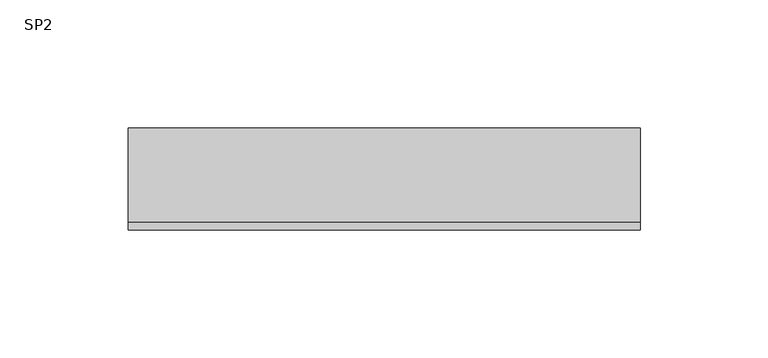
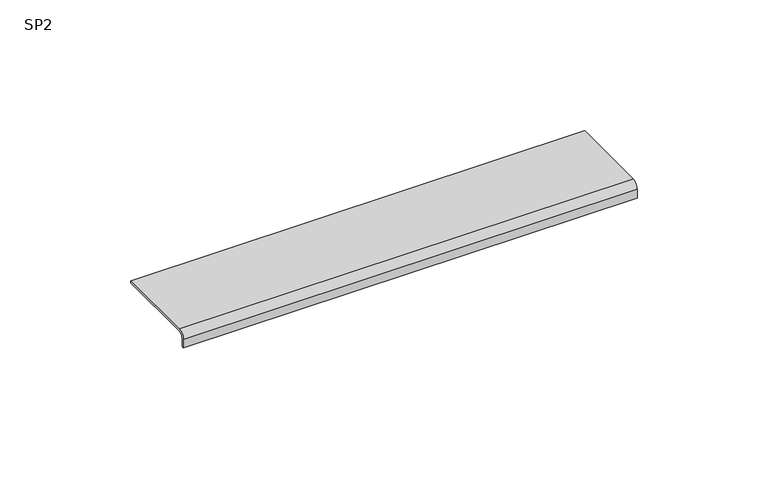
"""IFC4 building model written with IfcOpenShell, lengths in millimetres: cable carrier fitting geometry, КМ Профиль Соединительная пластина для листового лотка SP : SP2."""

import ifcopenshell
import ifcopenshell.guid

model = None  # the IFC model being written
_history = None  # IfcOwnerHistory: only IFC2X3 demands one
_inside = {}  # id of a spatial element -> (the spatial element, [elements in it])
_under = {}  # id of a project, library or spatial element -> (it, [spatial elements below it])
_declared = {}  # id of a project -> (the project, [libraries it declares])
_typed = {}  # id of a type object -> (the type object, [elements of that type])
_made_of = {}  # id of a material, layer set ... -> (it, [elements and type objects made of it])


def new_model(schema):
    """Start an empty IFC model of exactly this schema.

    Asked for "IFC4X3", IfcOpenShell would pick the latest addendum, in which some entities
    have other attributes; the version numbers below select the first issue.
    IFC2X3 requires an IfcOwnerHistory on every rooted entity: one is made here for all.
    """
    global model, _history
    if schema == "IFC4X3":
        model = ifcopenshell.file(schema_version=(4, 3, 0, 0))
    else:
        model = ifcopenshell.file(schema=schema)
    _inside.clear()
    _under.clear()
    _declared.clear()
    _typed.clear()
    _made_of.clear()
    _history = None
    if model.schema == "IFC2X3":
        org = make("IfcOrganization", Name="unknown")
        user = make(
            "IfcPersonAndOrganization",
            ThePerson=make("IfcPerson", FamilyName="unknown"),
            TheOrganization=org,
        )
        app = make(
            "IfcApplication",
            ApplicationDeveloper=org,
            Version="unknown",
            ApplicationFullName="unknown",
            ApplicationIdentifier="unknown",
        )
        _history = make(
            "IfcOwnerHistory",
            OwningUser=user,
            OwningApplication=app,
            ChangeAction="ADDED",
            CreationDate=0,
        )
    return model


def make(cls, **values):
    """One entity of the class cls with the attributes given. An attribute that is None is left unset."""
    return model.create_entity(
        cls, **{name: value for name, value in values.items() if value is not None}
    )


def rooted(cls, **values):
    """An entity with a GlobalId (a new one), such as an element, a storey or a relation."""
    return make(cls, GlobalId=ifcopenshell.guid.new(), OwnerHistory=_history, **values)


def si_unit(unit_type, name, prefix=None):
    """IfcSIUnit, for example si_unit("LENGTHUNIT", "METRE", prefix="MILLI")."""
    return make("IfcSIUnit", UnitType=unit_type, Prefix=prefix, Name=name)


def assignment(units):
    """IfcUnitAssignment: the units of a project."""
    return None if units is None else make("IfcUnitAssignment", Units=units)


def point(xyz):
    """IfcCartesianPoint."""
    return None if xyz is None else make("IfcCartesianPoint", Coordinates=xyz)


def direction(xyz):
    """IfcDirection."""
    return None if xyz is None else make("IfcDirection", DirectionRatios=xyz)


def frame(location, z_axis=None, x_axis=None):
    """IfcAxis2Placement3D, a coordinate frame: its origin and axes. An axis left out is left unset."""
    return make(
        "IfcAxis2Placement3D",
        Location=point(location),
        Axis=direction(z_axis),
        RefDirection=direction(x_axis),
    )


def frame_2d(location, x_axis=None):
    """IfcAxis2Placement2D, a coordinate frame in the plane: its origin and x axis."""
    return make(
        "IfcAxis2Placement2D", Location=point(location), RefDirection=direction(x_axis)
    )


def origin():
    """The frame at (0, 0, 0) with its axes left unset."""
    return frame((0.0, 0.0, 0.0))


def place(relative_to, where):
    """IfcLocalPlacement: puts the frame where relative to a parent placement (None: the world)."""
    return make(
        "IfcLocalPlacement", PlacementRelTo=relative_to, RelativePlacement=where
    )


def context(
    kind, dimensions, precision=None, world=None, true_north=None, identifier=None
):
    """IfcGeometricRepresentationContext, for example the 3D "Model" context."""
    return make(
        "IfcGeometricRepresentationContext",
        ContextIdentifier=identifier,
        ContextType=kind,
        CoordinateSpaceDimension=dimensions,
        Precision=precision,
        WorldCoordinateSystem=world,
        TrueNorth=true_north,
    )


def project(units=None, contexts=None):
    """IfcProject with its units and contexts."""
    return rooted(
        "IfcProject",
        Name="project",
        RepresentationContexts=contexts,
        UnitsInContext=assignment(units),
    )


def spatial(cls, under=None, at=None, **own):
    """A site, building, storey or space (cls), placed at a placement, below another one or the project."""
    s = rooted(cls, ObjectPlacement=at, **own)
    if under is not None:
        _under.setdefault(under.id(), (under, []))[1].append(s)
    return s


def polyline(points):
    """IfcPolyline through the points."""
    return make("IfcPolyline", Points=[point(p) for p in points])


def circle_curve(where, radius):
    """IfcCircle in the frame where."""
    return make("IfcCircle", Position=where, Radius=radius)


def trimmed(basis, trim1, trim2, sense, master):
    """IfcTrimmedCurve: the piece of a basis curve between two trims."""
    return make(
        "IfcTrimmedCurve",
        BasisCurve=basis,
        Trim1=trim1,
        Trim2=trim2,
        SenseAgreement=sense,
        MasterRepresentation=master,
    )


def segment(curve, same_sense, transition):
    """IfcCompositeCurveSegment."""
    return make(
        "IfcCompositeCurveSegment",
        Transition=transition,
        SameSense=same_sense,
        ParentCurve=curve,
    )


def composite_curve(segments, self_intersect=None):
    """IfcCompositeCurve: segments joined end to end."""
    return make("IfcCompositeCurve", Segments=segments, SelfIntersect=self_intersect)


def outline(outer, holes=None, kind="AREA"):
    """IfcArbitraryClosedProfileDef: a profile drawn as a closed curve; with holes, ...WithVoids."""
    if holes is None:
        return make("IfcArbitraryClosedProfileDef", ProfileType=kind, OuterCurve=outer)
    return make(
        "IfcArbitraryProfileDefWithVoids",
        ProfileType=kind,
        OuterCurve=outer,
        InnerCurves=holes,
    )


def extrude(swept, where, along, depth):
    """IfcExtrudedAreaSolid: the profile swept, set in the frame where, extruded along a direction by depth."""
    return make(
        "IfcExtrudedAreaSolid",
        SweptArea=swept,
        Position=where,
        ExtrudedDirection=direction(along),
        Depth=depth,
    )


def shape(context_of_items, identifier, shape_type, items):
    """IfcShapeRepresentation: the items that make up one representation, for example the "Body"."""
    return make(
        "IfcShapeRepresentation",
        ContextOfItems=context_of_items,
        RepresentationIdentifier=identifier,
        RepresentationType=shape_type,
        Items=items,
    )


def source(mapping_origin, context_of_items, identifier, shape_type, items):
    """IfcRepresentationMap: a shape defined once, which mapped items show again and again."""
    return make(
        "IfcRepresentationMap",
        MappingOrigin=mapping_origin,
        MappedRepresentation=shape(context_of_items, identifier, shape_type, items),
    )


def transform(
    local_origin,
    x_axis=None,
    y_axis=None,
    z_axis=None,
    scale=None,
    scale2=None,
    scale3=None,
    uniform=True,
):
    """IfcCartesianTransformationOperator3D, or its non-uniform kind. x_axis, y_axis, z_axis: its Axis1, 2, 3."""
    if uniform:
        return make(
            "IfcCartesianTransformationOperator3D",
            Axis1=direction(x_axis),
            Axis2=direction(y_axis),
            LocalOrigin=point(local_origin),
            Scale=scale,
            Axis3=direction(z_axis),
        )
    return make(
        "IfcCartesianTransformationOperator3DnonUniform",
        Axis1=direction(x_axis),
        Axis2=direction(y_axis),
        LocalOrigin=point(local_origin),
        Scale=scale,
        Axis3=direction(z_axis),
        Scale2=scale2,
        Scale3=scale3,
    )


def mapped(mapping_source, mapping_target):
    """IfcMappedItem: shows the shape of a source again, moved by a transform."""
    return make(
        "IfcMappedItem", MappingSource=mapping_source, MappingTarget=mapping_target
    )


def made_of(thing, what):
    """Note that an element or type object is made of a material, layer set ...; save() writes the relation."""
    if what is not None:
        _made_of.setdefault(what.id(), (what, []))[1].append(thing)
    return thing


def element(
    cls,
    number,
    at=None,
    inside=None,
    cuts=None,
    type_object=None,
    material=None,
    context=None,
    identifier="Body",
    shape_type=None,
    held_by="IfcProductDefinitionShape",
    body=None,
    shapes=None,
    **own,
):
    """One element of the class cls, such as IfcWall. Its Tag is "e" and its number.

    at: its placement. inside: the storey or other place that contains it. cuts: it is an
    opening in that element (IfcRelVoidsElement). A single representation is given by context,
    identifier, shape_type and body (its items); several are given by shapes. held_by: the class
    of the entity that holds the representations. save() writes the other relations.
    """
    e = rooted(cls, Tag="e%d" % number, ObjectPlacement=at, **own)
    if body is not None:
        shapes = [shape(context, identifier, shape_type, body)]
    if shapes is not None:
        e.Representation = make(held_by, Representations=shapes)
    if inside is not None:
        _inside.setdefault(inside.id(), (inside, []))[1].append(e)
    if cuts is not None:
        rooted(
            "IfcRelVoidsElement", RelatingBuildingElement=cuts, RelatedOpeningElement=e
        )
    if type_object is not None:
        _typed.setdefault(type_object.id(), (type_object, []))[1].append(e)
    return made_of(e, material)


def aggregate(whole, parts):
    """IfcRelAggregates: a whole, such as a stair, and the parts it consists of."""
    return rooted("IfcRelAggregates", RelatingObject=whole, RelatedObjects=parts)


def save(model, path):
    """Write the relations noted so far, then the file.

    IfcRelAggregates (storeys below a building ...), IfcRelContainedInSpatialStructure (elements
    in a storey), IfcRelDefinesByType, IfcRelAssociatesMaterial and IfcRelDeclares: one each for
    every whole, place, type object, material and project.
    """
    for whole, parts in _under.values():
        aggregate(whole, parts)
    for where, things in _inside.values():
        rooted(
            "IfcRelContainedInSpatialStructure",
            RelatedElements=things,
            RelatingStructure=where,
        )
    for kind, things in _typed.values():
        rooted("IfcRelDefinesByType", RelatedObjects=things, RelatingType=kind)
    for what, things in _made_of.values():
        rooted("IfcRelAssociatesMaterial", RelatedObjects=things, RelatingMaterial=what)
    for by, libraries in _declared.values():
        rooted("IfcRelDeclares", RelatingContext=by, RelatedDefinitions=libraries)
    model.write(path)


def sp2_9bf6ed85(model_context):
    return source(origin(), model_context, "Body", "SweptSolid", [
        extrude(outline(composite_curve([segment(polyline([(-17.0, 0.0), (20.0, 0.0), (20.0, -1.0), (-17.0, -1.0)]), True, "CONTINUOUS"), segment(trimmed(circle_curve(frame_2d((-17.0, -3.0)), 2.0), [point((-17.0, -1.0))], [point((-19.0, -3.0))], True, "CARTESIAN"), True, "CONTINUOUS"), segment(polyline([(-19.0, -3.0), (-19.0, -7.0), (-20.0, -7.0), (-20.0, -3.0)]), True, "CONTINUOUS"), segment(trimmed(circle_curve(frame_2d((-17.0, -3.0)), 3.0), [point((-20.0, -3.0))], [point((-17.0, 0.0))], False, "CARTESIAN"), True, "CONTINUOUS")], self_intersect=False)), frame((-100.0, 0.0, 0.0), z_axis=(1.0, 0.0, 0.0), x_axis=(0.0, 1.0, 0.0)), (0.0, 0.0, 1.0), 200.0),
    ])


if __name__ == "__main__":
    model = new_model("IFC4")
    model_context = context("Model", 3, world=origin())
    ifc_project = project(units=[si_unit("LENGTHUNIT", "METRE", prefix="MILLI")], contexts=[model_context])
    site = spatial("IfcSite", under=ifc_project)
    building = spatial("IfcBuilding", under=site)
    placement = place(None, origin())
    sp2_shape = sp2_9bf6ed85(model_context)
    element("IfcCableCarrierFitting", 1, ObjectType="КМ Профиль Соединительная пластина для листового лотка SP : SP2", at=placement, inside=building, context=model_context, shape_type="MappedRepresentation", body=[
        mapped(sp2_shape, transform((0.0, 0.0, 0.0), x_axis=(1.0, 0.0, 0.0), y_axis=(0.0, 1.0, 0.0), z_axis=(0.0, 0.0, 1.0))),
    ])
    save(model, "model.ifc")
